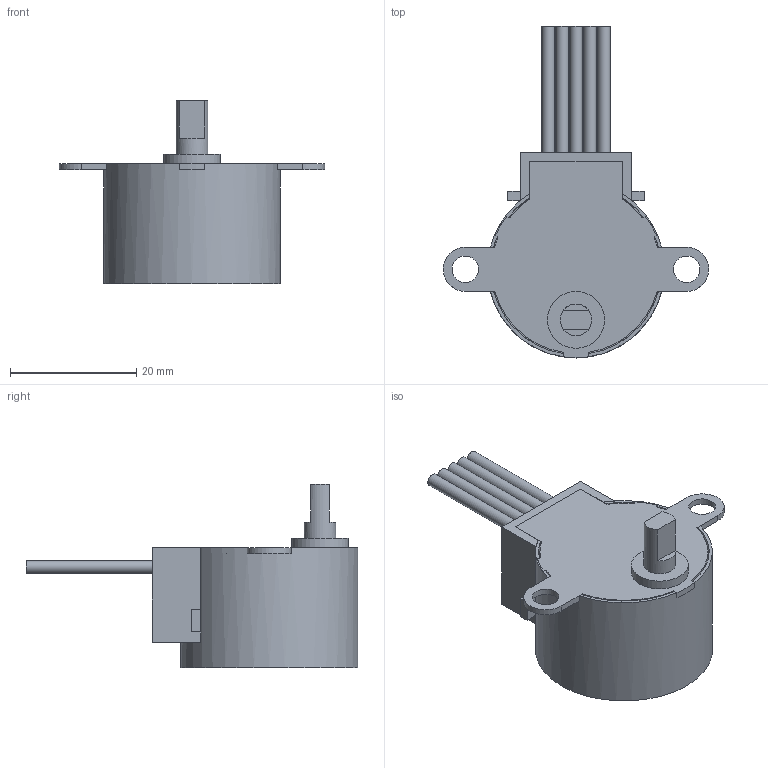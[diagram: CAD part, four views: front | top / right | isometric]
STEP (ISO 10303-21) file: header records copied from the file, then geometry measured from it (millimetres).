
FILE_DESCRIPTION(/* description */ (''),/* implementation_level */ '2;1');
FILE_NAME(/* name */ 'C:/Users/Ulises/Desktop/T1/mecanica_cad/28BYJ-48_5V_Stepper Motor.step',/* time_stamp */ '2020-10-16T01:29:39-03:00',/* author */ (''),/* organization */ (''),/* preprocessor_version */ 'ST-DEVELOPER v18.1',/* originating_system */ 'Autodesk Translation Framework v9.3.0.1241',/* authorisation */ '');
FILE_SCHEMA (('AUTOMOTIVE_DESIGN { 1 0 10303 214 3 1 1 }'));
Length unit declared in the file: millimetre
Products named in the file (10): 28BYJ-48 5V Stepper Motor; housing; acople; plastic_housing; out; wires; pink; blue; orange; yellow
Assembly tree (9 placements, depth 3):
  28BYJ-48 5V Stepper Motor
    housing
    acople
    plastic_housing
    out
    wires
      pink
      blue
      orange
      yellow
Bounding box: 42 x 52.5 x 29 mm (x, y, z)
Volume: 3661.9 mm3; surface area: 7795.8 mm2
Topology: 9 solids, 9 shells, 138 faces, 353 edges, 234 vertices
Faces by surface type: plane 99, cylinder 39
Full cylindrical faces by diameter (mm): 1.5 x1, 2 x5, 4.2 x2, 5 x1, 9 x2, 27 x1, 28 x1
Entity records: 4591 total; most frequent: DIRECTION 771, CARTESIAN_POINT 744, ORIENTED_EDGE 706, EDGE_CURVE 353, AXIS2_PLACEMENT_3D 261, LINE 249, VECTOR 249, VERTEX_POINT 234
